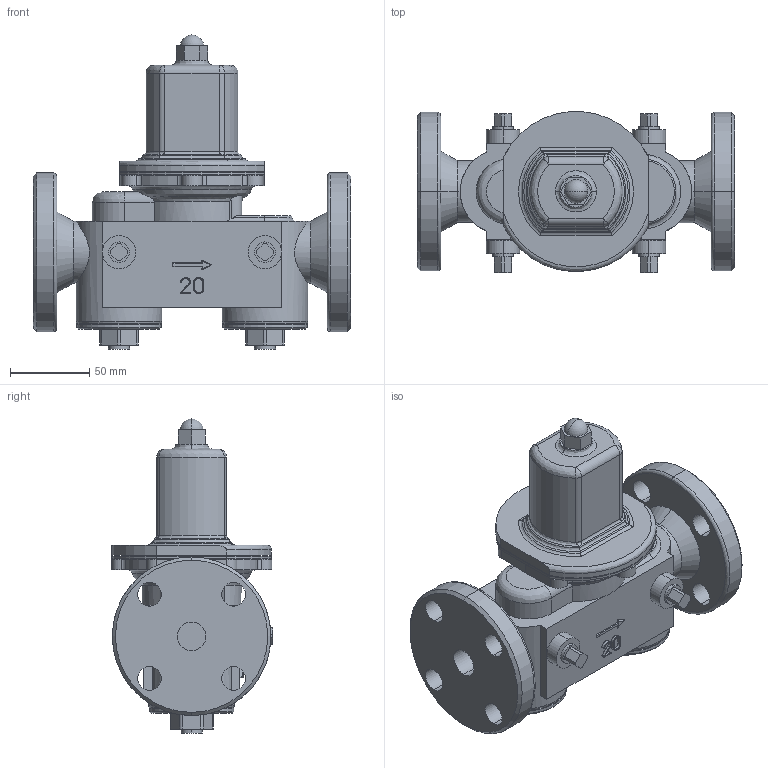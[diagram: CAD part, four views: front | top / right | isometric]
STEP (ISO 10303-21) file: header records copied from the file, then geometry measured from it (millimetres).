
FILE_DESCRIPTION( (''), '2;1');
FILE_NAME ('PC1028.12632.GD-27BP(20A)_31845.stp','2024-12-18T14:19:39',(''),(''),'spGate 20.6.3 (****-****-****-****)','','');
FILE_SCHEMA (('AUTOMOTIVE_DESIGN'));
Length unit declared in the file: millimetre
Bounding box: 200 x 101.5 x 198 mm (x, y, z)
Volume: 1128305.8 mm3; surface area: 126009.4 mm2
Topology: 1 solids, 1 shells, 344 faces, 868 edges, 551 vertices
Faces by surface type: cylinder 145, plane 107, bspline 86, sphere 6
Entity records: 20006 total; most frequent: CARTESIAN_POINT 5358, ORIENTED_EDGE 1724, DIRECTION 1498, COLOUR_RGB 1207, PRESENTATION_STYLE_ASSIGNMENT 1207, STYLED_ITEM 1207, EDGE_CURVE 862, DRAUGHTING_PRE_DEFINED_CURVE_FONT 862
